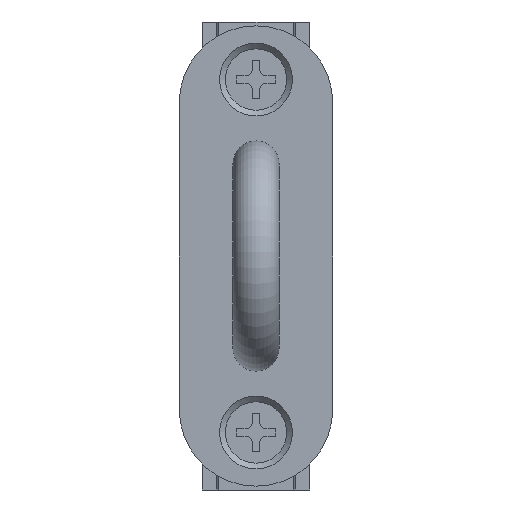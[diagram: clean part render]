
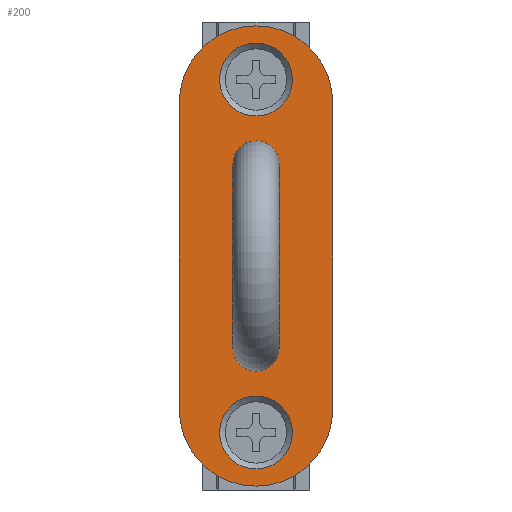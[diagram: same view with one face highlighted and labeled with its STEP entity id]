
A CAD part, front view. The second image highlights one B-rep face of the part: STEP entity #200.
In plain terms, the highlighted planar face has unit normal (0, -1, 0) as drawn and (0, 0, -1) by its records, which use the part's own axes.
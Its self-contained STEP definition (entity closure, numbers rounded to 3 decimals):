
#200=ADVANCED_FACE('',(#366,#367,#368,#369,#370),#371,.F.);
#366=FACE_BOUND('',#532,.T.);
#367=FACE_BOUND('',#533,.T.);
#368=FACE_BOUND('',#534,.T.);
#369=FACE_BOUND('',#535,.T.);
#370=FACE_OUTER_BOUND('',#536,.T.);
#371=PLANE('',#537);
#532=EDGE_LOOP('',(#777));
#533=EDGE_LOOP('',(#778));
#534=EDGE_LOOP('',(#779));
#535=EDGE_LOOP('',(#780));
#536=EDGE_LOOP('',(#781,#782,#783,#784));
#537=AXIS2_PLACEMENT_3D('',#785,#786,#787);
#777=ORIENTED_EDGE('',*,*,#1033,.T.);
#778=ORIENTED_EDGE('',*,*,#1089,.T.);
#779=ORIENTED_EDGE('',*,*,#1085,.F.);
#780=ORIENTED_EDGE('',*,*,#1090,.F.);
#781=ORIENTED_EDGE('',*,*,#1091,.F.);
#782=ORIENTED_EDGE('',*,*,#1092,.F.);
#783=ORIENTED_EDGE('',*,*,#1093,.F.);
#784=ORIENTED_EDGE('',*,*,#1025,.F.);
#785=CARTESIAN_POINT('',(-20.0,0.,8.714));
#786=DIRECTION('',(0.0,0.0,1.0));
#787=DIRECTION('',(1.0,0.0,0.0));
#1025=EDGE_CURVE('',#1185,#1186,#1187,.T.);
#1033=EDGE_CURVE('',#1199,#1199,#1200,.T.);
#1085=EDGE_CURVE('',#1284,#1284,#1285,.T.);
#1089=EDGE_CURVE('',#1289,#1289,#1290,.T.);
#1090=EDGE_CURVE('',#1291,#1291,#1292,.T.);
#1091=EDGE_CURVE('',#1293,#1185,#1294,.T.);
#1092=EDGE_CURVE('',#1295,#1293,#1296,.T.);
#1093=EDGE_CURVE('',#1186,#1295,#1297,.T.);
#1185=VERTEX_POINT('',#1420);
#1186=VERTEX_POINT('',#1421);
#1187=CIRCLE('',#1422,10.0);
#1199=VERTEX_POINT('',#1436);
#1200=CIRCLE('',#1437,3.0);
#1284=VERTEX_POINT('',#1553);
#1285=CIRCLE('',#1554,4.75);
#1289=VERTEX_POINT('',#1559);
#1290=CIRCLE('',#1560,3.0);
#1291=VERTEX_POINT('',#1561);
#1292=CIRCLE('',#1562,4.75);
#1293=VERTEX_POINT('',#1563);
#1294=LINE('',#1564,#1565);
#1295=VERTEX_POINT('',#1566);
#1296=CIRCLE('',#1567,10.0);
#1297=LINE('',#1568,#1569);
#1420=CARTESIAN_POINT('',(-20.0,10.0,8.714));
#1421=CARTESIAN_POINT('',(-20.0,-10.0,8.714));
#1422=AXIS2_PLACEMENT_3D('',#1688,#1689,#1690);
#1436=CARTESIAN_POINT('',(-9.0,0.,8.714));
#1437=AXIS2_PLACEMENT_3D('',#1702,#1703,#1704);
#1553=CARTESIAN_POINT('',(23.0,-4.75,8.714));
#1554=AXIS2_PLACEMENT_3D('',#1758,#1759,#1760);
#1559=CARTESIAN_POINT('',(15.0,0.,8.714));
#1560=AXIS2_PLACEMENT_3D('',#1762,#1763,#1764);
#1561=CARTESIAN_POINT('',(-23.0,-4.75,8.714));
#1562=AXIS2_PLACEMENT_3D('',#1765,#1766,#1767);
#1563=CARTESIAN_POINT('',(20.0,10.0,8.714));
#1564=CARTESIAN_POINT('',(20.0,10.0,8.714));
#1565=VECTOR('',#1768,1.0);
#1566=CARTESIAN_POINT('',(20.0,-10.0,8.714));
#1567=AXIS2_PLACEMENT_3D('',#1769,#1770,#1771);
#1568=CARTESIAN_POINT('',(-20.0,-10.0,8.714));
#1569=VECTOR('',#1772,1.0);
#1688=CARTESIAN_POINT('',(-20.0,0.,8.714));
#1689=DIRECTION('',(0.0,0.0,1.0));
#1690=DIRECTION('',(1.0,0.0,0.0));
#1702=CARTESIAN_POINT('',(-12.0,0.,8.714));
#1703=DIRECTION('',(0.0,0.0,1.0));
#1704=DIRECTION('',(1.0,0.0,0.0));
#1758=CARTESIAN_POINT('',(23.0,0.0,8.714));
#1759=DIRECTION('',(0.0,0.,-1.0));
#1760=DIRECTION('',(0.0,-1.0,0.));
#1762=CARTESIAN_POINT('',(12.0,0.,8.714));
#1763=DIRECTION('',(0.0,0.0,1.0));
#1764=DIRECTION('',(1.0,0.0,0.0));
#1765=CARTESIAN_POINT('',(-23.0,0.0,8.714));
#1766=DIRECTION('',(0.0,0.,-1.0));
#1767=DIRECTION('',(0.0,-1.0,0.));
#1768=DIRECTION('',(-1.0,0.0,0.0));
#1769=CARTESIAN_POINT('',(20.0,0.,8.714));
#1770=DIRECTION('',(0.0,0.0,1.0));
#1771=DIRECTION('',(1.0,0.0,0.0));
#1772=DIRECTION('',(1.0,0.0,0.0));
